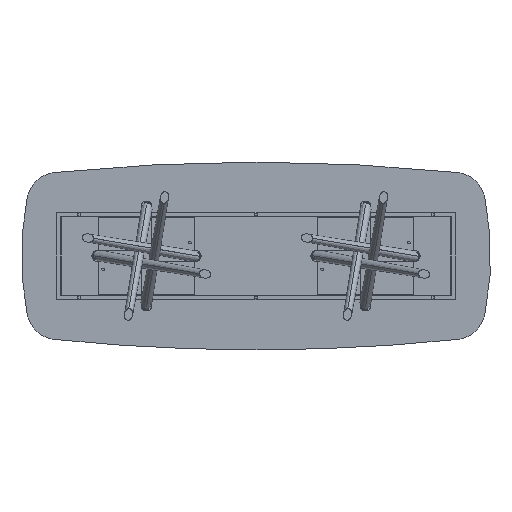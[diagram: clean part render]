
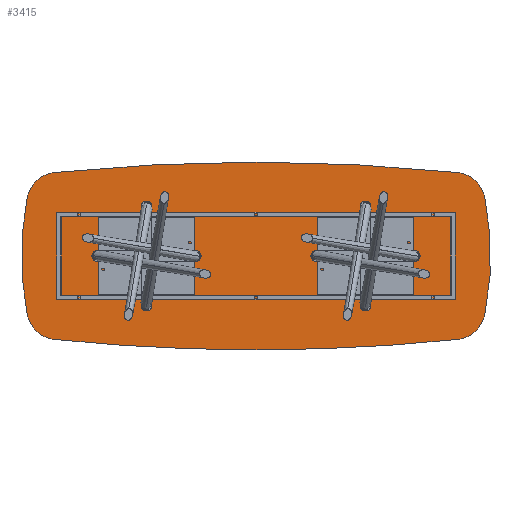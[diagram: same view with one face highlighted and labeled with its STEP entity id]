
A CAD part, front view. The second image highlights one B-rep face of the part: STEP entity #3415.
In plain terms, the highlighted planar face has unit normal (0, -1, 0).
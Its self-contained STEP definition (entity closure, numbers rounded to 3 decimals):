
#107 = DIRECTION ( 'NONE',  ( 0., 0., 1. ) ) ;
#265 = DIRECTION ( 'NONE',  ( 0., 0., 1. ) ) ;
#412 = DIRECTION ( 'NONE',  ( 0., 0., 1. ) ) ;
#483 = VERTEX_POINT ( 'NONE', #8450 ) ;
#556 = CARTESIAN_POINT ( 'NONE',  ( 0., 0., -11900. ) ) ;
#570 = ORIENTED_EDGE ( 'NONE', *, *, #8506, .T. ) ;
#598 = CIRCLE ( 'NONE', #6562, 12500. ) ;
#1211 = DIRECTION ( 'NONE',  ( 0., 0., 1. ) ) ;
#1287 = AXIS2_PLACEMENT_3D ( 'NONE', #14163, #8261, #10578 ) ;
#1764 = EDGE_CURVE ( 'NONE', #2429, #9326, #15139, .T. ) ;
#2130 = CARTESIAN_POINT ( 'NONE',  ( 1287.344, 0., -533.533 ) ) ;
#2237 = AXIS2_PLACEMENT_3D ( 'NONE', #13502, #14519, #3887 ) ;
#2372 = AXIS2_PLACEMENT_3D ( 'NONE', #7487, #2516, #107 ) ;
#2412 = ORIENTED_EDGE ( 'NONE', *, *, #4550, .T. ) ;
#2429 = VERTEX_POINT ( 'NONE', #8493 ) ;
#2516 = DIRECTION ( 'NONE',  ( 0., -1., 0. ) ) ;
#2588 = CARTESIAN_POINT ( 'NONE',  ( 0., 0., 11900. ) ) ;
#2629 = CARTESIAN_POINT ( 'NONE',  ( 1266.747, 0., -334.597 ) ) ;
#2666 = DIRECTION ( 'NONE',  ( 0., 0., 1. ) ) ;
#3415 = ADVANCED_FACE ( 'NONE', ( #8766 ), #6512, .F. ) ;
#3467 = DIRECTION ( 'NONE',  ( 0., -1., 0. ) ) ;
#3862 = CIRCLE ( 'NONE', #2372, 200. ) ;
#3887 = DIRECTION ( 'NONE',  ( 0., 0., 1. ) ) ;
#3896 = CARTESIAN_POINT ( 'NONE',  ( -1462.835, 0., 373.961 ) ) ;
#4167 = ORIENTED_EDGE ( 'NONE', *, *, #4353, .F. ) ;
#4330 = AXIS2_PLACEMENT_3D ( 'NONE', #2588, #11211, #412 ) ;
#4353 = EDGE_CURVE ( 'NONE', #2429, #13710, #14647, .T. ) ;
#4550 = EDGE_CURVE ( 'NONE', #13178, #4669, #7717, .T. ) ;
#4669 = VERTEX_POINT ( 'NONE', #5041 ) ;
#4971 = ORIENTED_EDGE ( 'NONE', *, *, #14538, .F. ) ;
#5041 = CARTESIAN_POINT ( 'NONE',  ( 1462.835, 0., -373.961 ) ) ;
#5242 = ORIENTED_EDGE ( 'NONE', *, *, #11657, .T. ) ;
#5806 = CIRCLE ( 'NONE', #13006, 200. ) ;
#5879 = CARTESIAN_POINT ( 'NONE',  ( -1266.747, 0., -334.597 ) ) ;
#5968 = EDGE_CURVE ( 'NONE', #12880, #4669, #7989, .T. ) ;
#6512 = PLANE ( 'NONE',  #2237 ) ;
#6562 = AXIS2_PLACEMENT_3D ( 'NONE', #556, #14932, #265 ) ;
#6903 = VERTEX_POINT ( 'NONE', #10517 ) ;
#7044 = CARTESIAN_POINT ( 'NONE',  ( 1462.835, 0., 373.961 ) ) ;
#7187 = AXIS2_PLACEMENT_3D ( 'NONE', #5879, #3467, #1211 ) ;
#7373 = DIRECTION ( 'NONE',  ( 0., 0., 1. ) ) ;
#7487 = CARTESIAN_POINT ( 'NONE',  ( -1266.747, 0., 334.597 ) ) ;
#7717 = CIRCLE ( 'NONE', #12928, 200. ) ;
#7989 = CIRCLE ( 'NONE', #1287, 1900. ) ;
#8036 = ORIENTED_EDGE ( 'NONE', *, *, #11822, .F. ) ;
#8261 = DIRECTION ( 'NONE',  ( 0., 1., 0. ) ) ;
#8381 = EDGE_LOOP ( 'NONE', ( #4971, #5242, #4167, #15245, #13002, #8036, #2412, #13349, #570 ) ) ;
#8450 = CARTESIAN_POINT ( 'NONE',  ( -1287.344, 0., 533.533 ) ) ;
#8493 = CARTESIAN_POINT ( 'NONE',  ( -1462.835, 0., -373.961 ) ) ;
#8506 = EDGE_CURVE ( 'NONE', #12880, #12606, #5806, .T. ) ;
#8630 = EDGE_CURVE ( 'NONE', #6903, #9326, #13244, .T. ) ;
#8766 = FACE_OUTER_BOUND ( 'NONE', #8381, .T. ) ;
#9041 = CARTESIAN_POINT ( 'NONE',  ( 0., 0., 11900. ) ) ;
#9252 = CARTESIAN_POINT ( 'NONE',  ( 400., 0., 0. ) ) ;
#9326 = VERTEX_POINT ( 'NONE', #12596 ) ;
#9884 = CARTESIAN_POINT ( 'NONE',  ( 1266.747, 0., 334.597 ) ) ;
#10271 = DIRECTION ( 'NONE',  ( 0., 0., 1. ) ) ;
#10517 = CARTESIAN_POINT ( 'NONE',  ( 0., 0., -600. ) ) ;
#10558 = DIRECTION ( 'NONE',  ( 0., 0., 1. ) ) ;
#10578 = DIRECTION ( 'NONE',  ( 0., 0., 1. ) ) ;
#11059 = DIRECTION ( 'NONE',  ( 0., 1., 0. ) ) ;
#11060 = CIRCLE ( 'NONE', #13539, 12500. ) ;
#11211 = DIRECTION ( 'NONE',  ( 0., 1., 0. ) ) ;
#11657 = EDGE_CURVE ( 'NONE', #483, #13710, #3862, .T. ) ;
#11810 = DIRECTION ( 'NONE',  ( 0., -1., 0. ) ) ;
#11822 = EDGE_CURVE ( 'NONE', #13178, #6903, #11060, .T. ) ;
#12379 = DIRECTION ( 'NONE',  ( 0., -1., 0. ) ) ;
#12596 = CARTESIAN_POINT ( 'NONE',  ( -1287.344, 0., -533.533 ) ) ;
#12606 = VERTEX_POINT ( 'NONE', #12811 ) ;
#12811 = CARTESIAN_POINT ( 'NONE',  ( 1287.344, 0., 533.533 ) ) ;
#12880 = VERTEX_POINT ( 'NONE', #7044 ) ;
#12928 = AXIS2_PLACEMENT_3D ( 'NONE', #2629, #11810, #7373 ) ;
#13002 = ORIENTED_EDGE ( 'NONE', *, *, #8630, .F. ) ;
#13006 = AXIS2_PLACEMENT_3D ( 'NONE', #9884, #12379, #2666 ) ;
#13178 = VERTEX_POINT ( 'NONE', #2130 ) ;
#13244 = CIRCLE ( 'NONE', #4330, 12500. ) ;
#13349 = ORIENTED_EDGE ( 'NONE', *, *, #5968, .F. ) ;
#13398 = AXIS2_PLACEMENT_3D ( 'NONE', #9252, #14138, #10558 ) ;
#13502 = CARTESIAN_POINT ( 'NONE',  ( -200., 0., 5950. ) ) ;
#13539 = AXIS2_PLACEMENT_3D ( 'NONE', #9041, #11059, #10271 ) ;
#13710 = VERTEX_POINT ( 'NONE', #3896 ) ;
#14138 = DIRECTION ( 'NONE',  ( 0., 1., 0. ) ) ;
#14163 = CARTESIAN_POINT ( 'NONE',  ( -400., 0., 0. ) ) ;
#14519 = DIRECTION ( 'NONE',  ( 0., 1., 0. ) ) ;
#14538 = EDGE_CURVE ( 'NONE', #483, #12606, #598, .T. ) ;
#14647 = CIRCLE ( 'NONE', #13398, 1900. ) ;
#14932 = DIRECTION ( 'NONE',  ( 0., 1., 0. ) ) ;
#15139 = CIRCLE ( 'NONE', #7187, 200. ) ;
#15245 = ORIENTED_EDGE ( 'NONE', *, *, #1764, .T. ) ;
